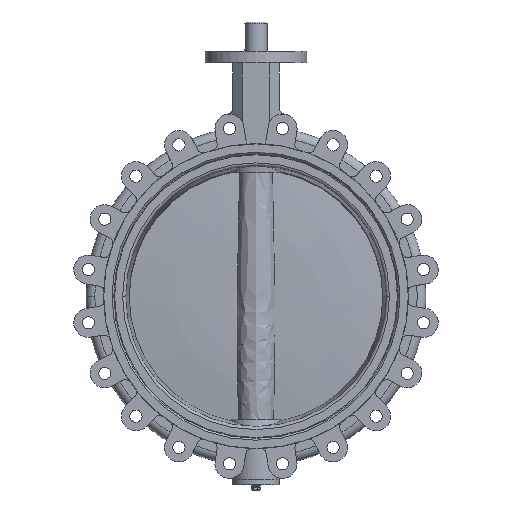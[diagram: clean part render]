
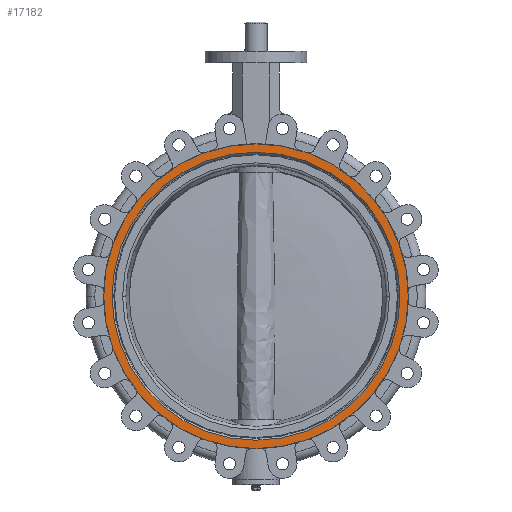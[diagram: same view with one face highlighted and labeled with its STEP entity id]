
A CAD part, left-side view. The second image highlights one B-rep face of the part: STEP entity #17182.
In plain terms, the highlighted planar face has unit normal (-1, 0, 0).
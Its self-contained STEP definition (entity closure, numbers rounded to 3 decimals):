
#706 = CYLINDRICAL_SURFACE('',#707,262.5);
#707 = AXIS2_PLACEMENT_3D('',#708,#709,#710);
#708 = CARTESIAN_POINT('',(126.752,0.,
    0.));
#709 = DIRECTION('',(1.,0.,0.));
#710 = DIRECTION('',(0.,1.,0.));
#8637 = VERTEX_POINT('',#8638);
#8638 = CARTESIAN_POINT('',(-57.,-248.1,0.));
#8645 = CONICAL_SURFACE('',#8646,248.1,0.785);
#8646 = AXIS2_PLACEMENT_3D('',#8647,#8648,#8649);
#8647 = CARTESIAN_POINT('',(-57.,0.,0.)
  );
#8648 = DIRECTION('',(-1.,0.,0.));
#8649 = DIRECTION('',(0.,-1.,0.));
#8657 = CONICAL_SURFACE('',#8658,248.1,0.785);
#8658 = AXIS2_PLACEMENT_3D('',#8659,#8660,#8661);
#8659 = CARTESIAN_POINT('',(-57.,0.,0.)
  );
#8660 = DIRECTION('',(-1.,0.,0.));
#8661 = DIRECTION('',(0.,-1.,0.));
#8669 = EDGE_CURVE('',#8637,#8670,#8672,.T.);
#8670 = VERTEX_POINT('',#8671);
#8671 = CARTESIAN_POINT('',(-57.,248.1,0.));
#8672 = SURFACE_CURVE('',#8673,(#8678,#8685),.PCURVE_S1.);
#8673 = CIRCLE('',#8674,248.1);
#8674 = AXIS2_PLACEMENT_3D('',#8675,#8676,#8677);
#8675 = CARTESIAN_POINT('',(-57.,0.,0.)
  );
#8676 = DIRECTION('',(1.,0.,0.));
#8677 = DIRECTION('',(0.,1.,0.));
#8678 = PCURVE('',#8645,#8679);
#8679 = DEFINITIONAL_REPRESENTATION('',(#8680),#8684);
#8680 = LINE('',#8681,#8682);
#8681 = CARTESIAN_POINT('',(9.425,0.));
#8682 = VECTOR('',#8683,1.);
#8683 = DIRECTION('',(-1.,0.));
#8684 = ( GEOMETRIC_REPRESENTATION_CONTEXT(2) 
PARAMETRIC_REPRESENTATION_CONTEXT() REPRESENTATION_CONTEXT('2D SPACE',''
  ) );
#8685 = PCURVE('',#8686,#8691);
#8686 = PLANE('',#8687);
#8687 = AXIS2_PLACEMENT_3D('',#8688,#8689,#8690);
#8688 = CARTESIAN_POINT('',(-57.,0.,262.5));
#8689 = DIRECTION('',(-1.,0.,0.));
#8690 = DIRECTION('',(0.,-1.,0.));
#8691 = DEFINITIONAL_REPRESENTATION('',(#8692),#8700);
#8692 = ( BOUNDED_CURVE() B_SPLINE_CURVE(2,(#8693,#8694,#8695,#8696,
#8697,#8698,#8699),.UNSPECIFIED.,.T.,.F.) B_SPLINE_CURVE_WITH_KNOTS((1,2
    ,2,2,2,1),(-2.094,0.,2.094,4.189,
6.283,8.378),.UNSPECIFIED.) CURVE() 
GEOMETRIC_REPRESENTATION_ITEM() RATIONAL_B_SPLINE_CURVE((1.,0.5,1.,0.5,
1.,0.5,1.)) REPRESENTATION_ITEM('') );
#8693 = CARTESIAN_POINT('',(-248.1,-262.5));
#8694 = CARTESIAN_POINT('',(-248.1,167.222));
#8695 = CARTESIAN_POINT('',(124.05,-47.639));
#8696 = CARTESIAN_POINT('',(496.2,-262.5));
#8697 = CARTESIAN_POINT('',(124.05,-477.361));
#8698 = CARTESIAN_POINT('',(-248.1,-692.222));
#8699 = CARTESIAN_POINT('',(-248.1,-262.5));
#8700 = ( GEOMETRIC_REPRESENTATION_CONTEXT(2) 
PARAMETRIC_REPRESENTATION_CONTEXT() REPRESENTATION_CONTEXT('2D SPACE',''
  ) );
#10770 = EDGE_CURVE('',#10771,#10773,#10775,.T.);
#10771 = VERTEX_POINT('',#10772);
#10772 = CARTESIAN_POINT('',(-57.,262.5,0.));
#10773 = VERTEX_POINT('',#10774);
#10774 = CARTESIAN_POINT('',(-57.,-262.5,0.));
#10775 = SURFACE_CURVE('',#10776,(#10781,#10793),.PCURVE_S1.);
#10776 = CIRCLE('',#10777,262.5);
#10777 = AXIS2_PLACEMENT_3D('',#10778,#10779,#10780);
#10778 = CARTESIAN_POINT('',(-57.,0.,0.)
  );
#10779 = DIRECTION('',(1.,0.,0.));
#10780 = DIRECTION('',(0.,1.,0.));
#10781 = PCURVE('',#10782,#10787);
#10782 = CYLINDRICAL_SURFACE('',#10783,262.5);
#10783 = AXIS2_PLACEMENT_3D('',#10784,#10785,#10786);
#10784 = CARTESIAN_POINT('',(126.752,0.,
    0.));
#10785 = DIRECTION('',(1.,0.,0.));
#10786 = DIRECTION('',(0.,1.,0.));
#10787 = DEFINITIONAL_REPRESENTATION('',(#10788),#10792);
#10788 = LINE('',#10789,#10790);
#10789 = CARTESIAN_POINT('',(0.,-183.752));
#10790 = VECTOR('',#10791,1.);
#10791 = DIRECTION('',(1.,0.));
#10792 = ( GEOMETRIC_REPRESENTATION_CONTEXT(2) 
PARAMETRIC_REPRESENTATION_CONTEXT() REPRESENTATION_CONTEXT('2D SPACE',''
  ) );
#10793 = PCURVE('',#8686,#10794);
#10794 = DEFINITIONAL_REPRESENTATION('',(#10795),#10803);
#10795 = ( BOUNDED_CURVE() B_SPLINE_CURVE(2,(#10796,#10797,#10798,#10799
    ,#10800,#10801,#10802),.UNSPECIFIED.,.T.,.F.) 
B_SPLINE_CURVE_WITH_KNOTS((1,2,2,2,2,1),(-2.094,0.,
    2.094,4.189,6.283,8.378),
.UNSPECIFIED.) CURVE() GEOMETRIC_REPRESENTATION_ITEM() 
RATIONAL_B_SPLINE_CURVE((1.,0.5,1.,0.5,1.,0.5,1.)) REPRESENTATION_ITEM(
  '') );
#10796 = CARTESIAN_POINT('',(-262.5,-262.5));
#10797 = CARTESIAN_POINT('',(-262.5,192.163));
#10798 = CARTESIAN_POINT('',(131.25,-35.168));
#10799 = CARTESIAN_POINT('',(525.,-262.5));
#10800 = CARTESIAN_POINT('',(131.25,-489.832));
#10801 = CARTESIAN_POINT('',(-262.5,-717.163));
#10802 = CARTESIAN_POINT('',(-262.5,-262.5));
#10803 = ( GEOMETRIC_REPRESENTATION_CONTEXT(2) 
PARAMETRIC_REPRESENTATION_CONTEXT() REPRESENTATION_CONTEXT('2D SPACE',''
  ) );
#13247 = EDGE_CURVE('',#10773,#10771,#13248,.T.);
#13248 = SURFACE_CURVE('',#13249,(#13254,#13261),.PCURVE_S1.);
#13249 = CIRCLE('',#13250,262.5);
#13250 = AXIS2_PLACEMENT_3D('',#13251,#13252,#13253);
#13251 = CARTESIAN_POINT('',(-57.,0.,0.)
  );
#13252 = DIRECTION('',(1.,0.,0.));
#13253 = DIRECTION('',(0.,1.,0.));
#13254 = PCURVE('',#706,#13255);
#13255 = DEFINITIONAL_REPRESENTATION('',(#13256),#13260);
#13256 = LINE('',#13257,#13258);
#13257 = CARTESIAN_POINT('',(0.,-183.752));
#13258 = VECTOR('',#13259,1.);
#13259 = DIRECTION('',(1.,0.));
#13260 = ( GEOMETRIC_REPRESENTATION_CONTEXT(2) 
PARAMETRIC_REPRESENTATION_CONTEXT() REPRESENTATION_CONTEXT('2D SPACE',''
  ) );
#13261 = PCURVE('',#8686,#13262);
#13262 = DEFINITIONAL_REPRESENTATION('',(#13263),#13271);
#13263 = ( BOUNDED_CURVE() B_SPLINE_CURVE(2,(#13264,#13265,#13266,#13267
    ,#13268,#13269,#13270),.UNSPECIFIED.,.T.,.F.) 
B_SPLINE_CURVE_WITH_KNOTS((1,2,2,2,2,1),(-2.094,0.,
    2.094,4.189,6.283,8.378),
.UNSPECIFIED.) CURVE() GEOMETRIC_REPRESENTATION_ITEM() 
RATIONAL_B_SPLINE_CURVE((1.,0.5,1.,0.5,1.,0.5,1.)) REPRESENTATION_ITEM(
  '') );
#13264 = CARTESIAN_POINT('',(-262.5,-262.5));
#13265 = CARTESIAN_POINT('',(-262.5,192.163));
#13266 = CARTESIAN_POINT('',(131.25,-35.168));
#13267 = CARTESIAN_POINT('',(525.,-262.5));
#13268 = CARTESIAN_POINT('',(131.25,-489.832));
#13269 = CARTESIAN_POINT('',(-262.5,-717.163));
#13270 = CARTESIAN_POINT('',(-262.5,-262.5));
#13271 = ( GEOMETRIC_REPRESENTATION_CONTEXT(2) 
PARAMETRIC_REPRESENTATION_CONTEXT() REPRESENTATION_CONTEXT('2D SPACE',''
  ) );
#17182 = ADVANCED_FACE('',(#17183,#17212),#8686,.T.);
#17183 = FACE_BOUND('',#17184,.T.);
#17184 = EDGE_LOOP('',(#17185,#17186));
#17185 = ORIENTED_EDGE('',*,*,#8669,.T.);
#17186 = ORIENTED_EDGE('',*,*,#17187,.T.);
#17187 = EDGE_CURVE('',#8670,#8637,#17188,.T.);
#17188 = SURFACE_CURVE('',#17189,(#17194,#17205),.PCURVE_S1.);
#17189 = CIRCLE('',#17190,248.1);
#17190 = AXIS2_PLACEMENT_3D('',#17191,#17192,#17193);
#17191 = CARTESIAN_POINT('',(-57.,0.,0.)
  );
#17192 = DIRECTION('',(1.,0.,0.));
#17193 = DIRECTION('',(0.,1.,0.));
#17194 = PCURVE('',#8686,#17195);
#17195 = DEFINITIONAL_REPRESENTATION('',(#17196),#17204);
#17196 = ( BOUNDED_CURVE() B_SPLINE_CURVE(2,(#17197,#17198,#17199,#17200
    ,#17201,#17202,#17203),.UNSPECIFIED.,.T.,.F.) 
B_SPLINE_CURVE_WITH_KNOTS((1,2,2,2,2,1),(-2.094,0.,
    2.094,4.189,6.283,8.378),
.UNSPECIFIED.) CURVE() GEOMETRIC_REPRESENTATION_ITEM() 
RATIONAL_B_SPLINE_CURVE((1.,0.5,1.,0.5,1.,0.5,1.)) REPRESENTATION_ITEM(
  '') );
#17197 = CARTESIAN_POINT('',(-248.1,-262.5));
#17198 = CARTESIAN_POINT('',(-248.1,167.222));
#17199 = CARTESIAN_POINT('',(124.05,-47.639));
#17200 = CARTESIAN_POINT('',(496.2,-262.5));
#17201 = CARTESIAN_POINT('',(124.05,-477.361));
#17202 = CARTESIAN_POINT('',(-248.1,-692.222));
#17203 = CARTESIAN_POINT('',(-248.1,-262.5));
#17204 = ( GEOMETRIC_REPRESENTATION_CONTEXT(2) 
PARAMETRIC_REPRESENTATION_CONTEXT() REPRESENTATION_CONTEXT('2D SPACE',''
  ) );
#17205 = PCURVE('',#8657,#17206);
#17206 = DEFINITIONAL_REPRESENTATION('',(#17207),#17211);
#17207 = LINE('',#17208,#17209);
#17208 = CARTESIAN_POINT('',(3.142,0.));
#17209 = VECTOR('',#17210,1.);
#17210 = DIRECTION('',(-1.,0.));
#17211 = ( GEOMETRIC_REPRESENTATION_CONTEXT(2) 
PARAMETRIC_REPRESENTATION_CONTEXT() REPRESENTATION_CONTEXT('2D SPACE',''
  ) );
#17212 = FACE_BOUND('',#17213,.T.);
#17213 = EDGE_LOOP('',(#17214,#17215));
#17214 = ORIENTED_EDGE('',*,*,#10770,.F.);
#17215 = ORIENTED_EDGE('',*,*,#13247,.F.);
